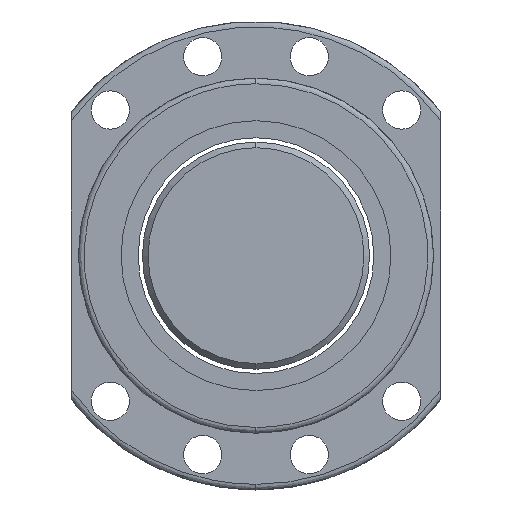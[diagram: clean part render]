
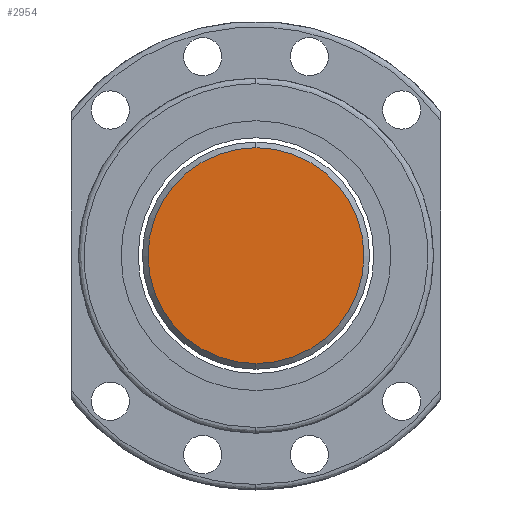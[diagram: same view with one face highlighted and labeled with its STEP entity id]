
A CAD part, left-side view. The second image highlights one B-rep face of the part: STEP entity #2954.
In plain terms, the highlighted planar face has unit normal (-1, 0, 0).
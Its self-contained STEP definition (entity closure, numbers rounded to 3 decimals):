
#187 = CARTESIAN_POINT ( 'NONE',  ( -355., 0., -38. ) ) ;
#203 = CARTESIAN_POINT ( 'NONE',  ( -355., 0., 38. ) ) ;
#206 = DIRECTION ( 'NONE',  ( 0., 0., -1. ) ) ;
#207 = DIRECTION ( 'NONE',  ( 1., 0., 0. ) ) ;
#208 = AXIS2_PLACEMENT_3D ( 'NONE', #215, #207, #206 ) ;
#209 = CIRCLE ( 'NONE', #208, 38. ) ;
#215 = CARTESIAN_POINT ( 'NONE',  ( -355., 0., 0. ) ) ;
#294 = CARTESIAN_POINT ( 'NONE',  ( -355., 20., 0. ) ) ;
#301 = PLANE ( 'NONE',  #325 ) ;
#325 = AXIS2_PLACEMENT_3D ( 'NONE', #294, #338, #336 ) ;
#336 = DIRECTION ( 'NONE',  ( 0., 0., -1. ) ) ;
#338 = DIRECTION ( 'NONE',  ( 1., 0., 0. ) ) ;
#362 = FACE_OUTER_BOUND ( 'NONE', #2963, .T. ) ;
#577 = AXIS2_PLACEMENT_3D ( 'NONE', #618, #651, #659 ) ;
#589 = CIRCLE ( 'NONE', #577, 38. ) ;
#618 = CARTESIAN_POINT ( 'NONE',  ( -355., 0., 0. ) ) ;
#651 = DIRECTION ( 'NONE',  ( 1., 0., 0. ) ) ;
#659 = DIRECTION ( 'NONE',  ( 0., 0., -1. ) ) ;
#2934 = EDGE_CURVE ( 'NONE', #2935, #2942, #209, .T. ) ;
#2935 = VERTEX_POINT ( 'NONE', #187 ) ;
#2939 = ORIENTED_EDGE ( 'NONE', *, *, #2934, .F. ) ;
#2942 = VERTEX_POINT ( 'NONE', #203 ) ;
#2944 = ORIENTED_EDGE ( 'NONE', *, *, #3069, .F. ) ;
#2954 = ADVANCED_FACE ( 'NONE', ( #362 ), #301, .F. ) ;
#2963 = EDGE_LOOP ( 'NONE', ( #2939, #2944 ) ) ;
#3069 = EDGE_CURVE ( 'NONE', #2942, #2935, #589, .T. ) ;
